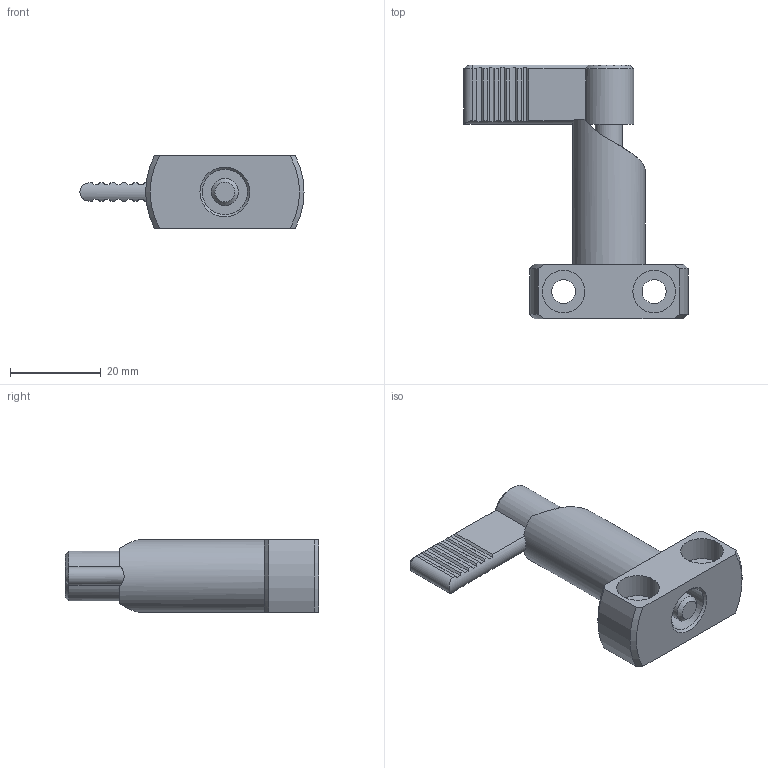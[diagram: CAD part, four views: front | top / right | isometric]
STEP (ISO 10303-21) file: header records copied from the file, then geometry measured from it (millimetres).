
FILE_DESCRIPTION( ( 'STEP AP203' ), '1' );
FILE_NAME( 'C:/Temp/Ganter_Step_05_03_2020/data/3_1/gn612_2/Indexing plunger GN 612.2-6-16-A (activated).stp', '2020-03-12T08:35:04', ( 'License CC BY-ND 4.0' ), ( 'CADENAS' ), ' ', 'PARTsolutions', ' ' );
FILE_SCHEMA( ( 'CONFIG_CONTROL_DESIGN' ) );
Length unit declared in the file: millimetre
Products named in the file (3): Indexing plunger GN 612.2-6-16-A (activated); _Rastriegel GN 612.2-6-16-A (betaetigt)-a; _Rastriegel GN 612.2-6-16-A (betaetigt)-b
Assembly tree (2 placements, depth 2):
  Indexing plunger GN 612.2-6-16-A (activated)
    _Rastriegel GN 612.2-6-16-A (betaetigt)-a
    _Rastriegel GN 612.2-6-16-A (betaetigt)-b
Bounding box: 49.5 x 56 x 16 mm (x, y, z)
Volume: 11697.2 mm3; surface area: 7985.2 mm2
Topology: 2 solids, 2 shells, 105 faces, 260 edges, 169 vertices
Faces by surface type: plane 64, cylinder 30, cone 10, torus 1
Full cylindrical faces by diameter (mm): 5.3 x2, 6 x3, 7.4 x1, 7.6 x1, 9.4 x4, 10 x2, 11 x1, 12 x1, 16 x1
Entity records: 3318 total; most frequent: CARTESIAN_POINT 798, DIRECTION 490, ORIENTED_EDGE 476, EDGE_CURVE 238, AXIS2_PLACEMENT_3D 179, VERTEX_POINT 167, EDGE_LOOP 141, LINE 132
